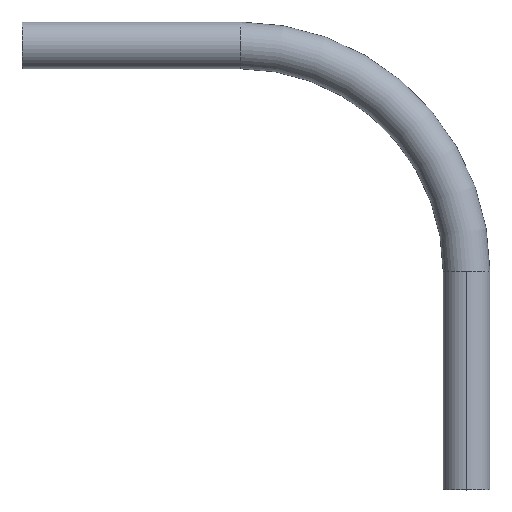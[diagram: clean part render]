
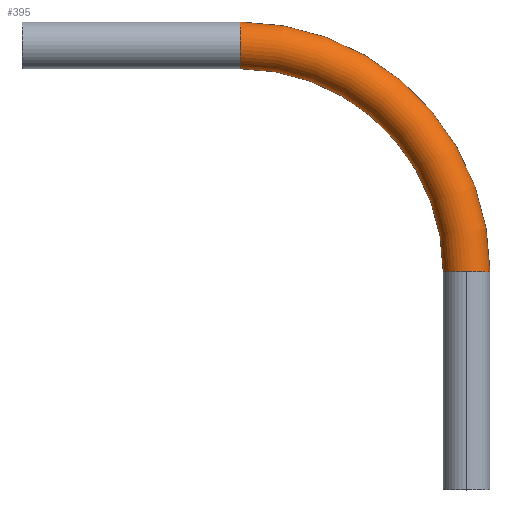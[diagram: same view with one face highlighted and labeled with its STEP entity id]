
A CAD part, top view. The second image highlights one B-rep face of the part: STEP entity #395.
In plain terms, the highlighted toroidal (fillet/blend) face has major radius 72.5 mm and minor radius 7.5 mm.
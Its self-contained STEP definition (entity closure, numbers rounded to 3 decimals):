
#7 = EDGE_CURVE ( 'NONE', #331, #30, #130, .T. ) ;
#10 = CIRCLE ( 'NONE', #14, 7.5 ) ;
#14 = AXIS2_PLACEMENT_3D ( 'NONE', #17, #25, #433 ) ;
#15 = AXIS2_PLACEMENT_3D ( 'NONE', #318, #55, #402 ) ;
#17 = CARTESIAN_POINT ( 'NONE',  ( -72.5, 142.5, 0. ) ) ;
#24 = ORIENTED_EDGE ( 'NONE', *, *, #156, .T. ) ;
#25 = DIRECTION ( 'NONE',  ( -1., 0., 0. ) ) ;
#30 = VERTEX_POINT ( 'NONE', #335 ) ;
#32 = DIRECTION ( 'NONE',  ( 0., 0., -1. ) ) ;
#39 = DIRECTION ( 'NONE',  ( -1., 0., 0. ) ) ;
#55 = DIRECTION ( 'NONE',  ( 0., 0., -1. ) ) ;
#79 = CIRCLE ( 'NONE', #387, 80. ) ;
#84 = CIRCLE ( 'NONE', #205, 65. ) ;
#91 = FACE_OUTER_BOUND ( 'NONE', #414, .T. ) ;
#94 = EDGE_CURVE ( 'NONE', #146, #455, #79, .T. ) ;
#97 = ORIENTED_EDGE ( 'NONE', *, *, #7, .T. ) ;
#101 = CARTESIAN_POINT ( 'NONE',  ( -7.5, 70., 0. ) ) ;
#109 = CARTESIAN_POINT ( 'NONE',  ( 0., 70., 0. ) ) ;
#130 = CIRCLE ( 'NONE', #230, 7.5 ) ;
#146 = VERTEX_POINT ( 'NONE', #438 ) ;
#155 = DIRECTION ( 'NONE',  ( 0., 0., -1. ) ) ;
#156 = EDGE_CURVE ( 'NONE', #356, #331, #84, .T. ) ;
#195 = DIRECTION ( 'NONE',  ( -1., 0., 0. ) ) ;
#197 = CARTESIAN_POINT ( 'NONE',  ( 0., 70., 0. ) ) ;
#205 = AXIS2_PLACEMENT_3D ( 'NONE', #448, #155, #195 ) ;
#227 = DIRECTION ( 'NONE',  ( 0., 1., 0. ) ) ;
#230 = AXIS2_PLACEMENT_3D ( 'NONE', #197, #227, #260 ) ;
#232 = DIRECTION ( 'NONE',  ( 0., 1., 0. ) ) ;
#260 = DIRECTION ( 'NONE',  ( -1., 0., 0. ) ) ;
#273 = EDGE_CURVE ( 'NONE', #30, #455, #415, .T. ) ;
#286 = TOROIDAL_SURFACE ( 'NONE', #15, 72.5, 7.5 ) ;
#293 = ORIENTED_EDGE ( 'NONE', *, *, #316, .F. ) ;
#316 = EDGE_CURVE ( 'NONE', #356, #146, #10, .T. ) ;
#318 = CARTESIAN_POINT ( 'NONE',  ( -72.5, 70., 0. ) ) ;
#331 = VERTEX_POINT ( 'NONE', #101 ) ;
#335 = CARTESIAN_POINT ( 'NONE',  ( 0., 70., 7.5 ) ) ;
#338 = CARTESIAN_POINT ( 'NONE',  ( 7.5, 70., 0. ) ) ;
#356 = VERTEX_POINT ( 'NONE', #369 ) ;
#369 = CARTESIAN_POINT ( 'NONE',  ( -72.5, 135., 0. ) ) ;
#375 = AXIS2_PLACEMENT_3D ( 'NONE', #109, #232, #39 ) ;
#387 = AXIS2_PLACEMENT_3D ( 'NONE', #396, #32, #401 ) ;
#395 = ADVANCED_FACE ( 'NONE', ( #91 ), #286, .T. ) ;
#396 = CARTESIAN_POINT ( 'NONE',  ( -72.5, 70., 0. ) ) ;
#400 = ORIENTED_EDGE ( 'NONE', *, *, #273, .T. ) ;
#401 = DIRECTION ( 'NONE',  ( -1., 0., 0. ) ) ;
#402 = DIRECTION ( 'NONE',  ( -1., 0., 0. ) ) ;
#414 = EDGE_LOOP ( 'NONE', ( #432, #293, #24, #97, #400 ) ) ;
#415 = CIRCLE ( 'NONE', #375, 7.5 ) ;
#432 = ORIENTED_EDGE ( 'NONE', *, *, #94, .F. ) ;
#433 = DIRECTION ( 'NONE',  ( 0., -1., 0. ) ) ;
#438 = CARTESIAN_POINT ( 'NONE',  ( -72.5, 150., 0. ) ) ;
#448 = CARTESIAN_POINT ( 'NONE',  ( -72.5, 70., 0. ) ) ;
#455 = VERTEX_POINT ( 'NONE', #338 ) ;
